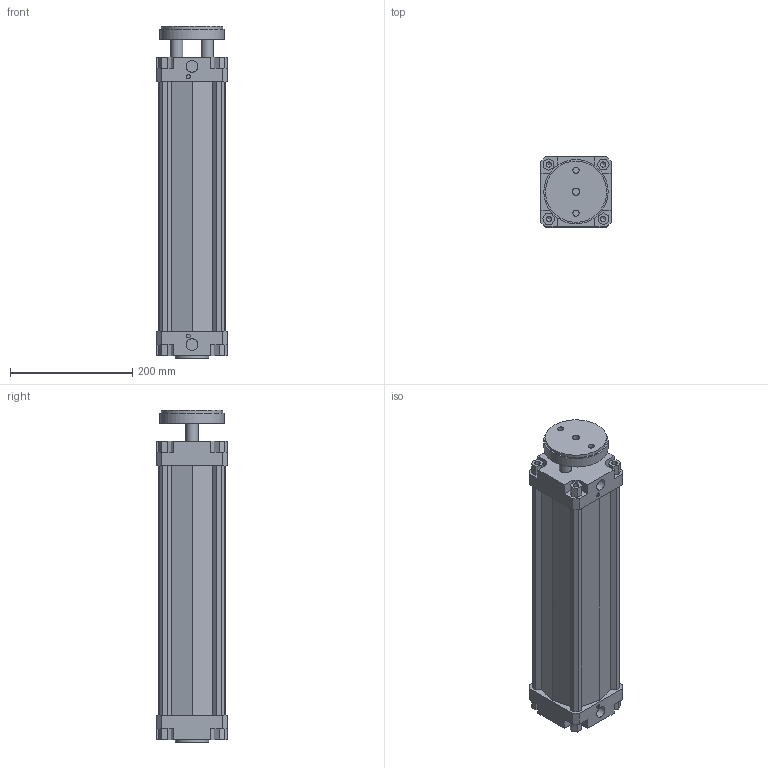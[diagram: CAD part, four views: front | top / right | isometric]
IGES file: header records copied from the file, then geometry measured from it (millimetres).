
Global section: file name: 132#_100_0350_01; native system: Autodesk Inventor 2014; preprocessor: unknown; author: A. Manieri; date: 20161006.163747; units: millimetre
Bounding box: 115 x 115 x 543 mm (x, y, z)
Volume: 2867434.9 mm3; surface area: 525878.5 mm2
Topology: 2 solids, 2 shells, 180 faces, 491 edges, 335 vertices
Faces by surface type: bspline 180
